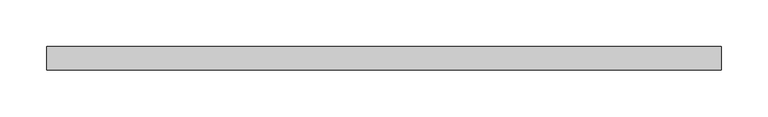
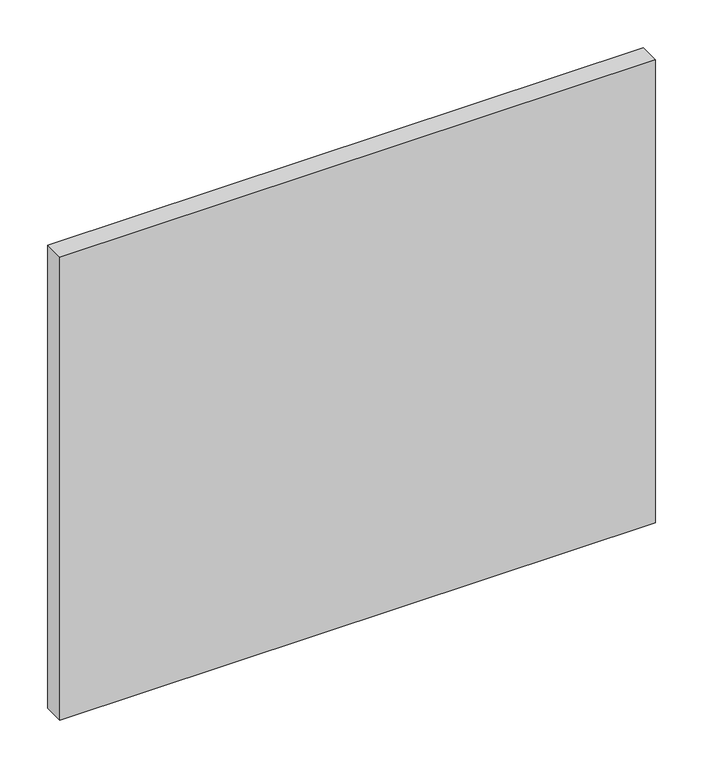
"""IFC4 building model written with IfcOpenShell, lengths in millimetres: plate geometry, 系统嵌板 : 玻璃."""

from ifc_helpers import new_model, si_unit, origin, origin_with_axes, place, context, project, spatial, polyline, outline, extrude, source, transform, mapped, element, save


def plate_72ebff30(model_context):
    return source(origin(), model_context, "Body", "SweptSolid", [
        extrude(outline(polyline([(358.985496, -12.5), (-358.985496, -12.5), (-358.985496, 12.5), (358.985496, 12.5), (358.985496, -12.5)])), origin_with_axes(), (0.0, 0.0, 1.0), 590.0),
    ])


if __name__ == "__main__":
    model = new_model("IFC4")
    model_context = context("Model", 3, world=origin())
    ifc_project = project(units=[si_unit("LENGTHUNIT", "METRE", prefix="MILLI")], contexts=[model_context])
    site = spatial("IfcSite", under=ifc_project)
    building = spatial("IfcBuilding", under=site)
    placement = place(None, origin())
    plate_shape = plate_72ebff30(model_context)
    element("IfcPlate", 1, ObjectType="系统嵌板 : 玻璃", at=placement, inside=building, context=model_context, shape_type="MappedRepresentation", body=[
        mapped(plate_shape, transform((0.0, 0.0, 0.0), x_axis=(1.0, 0.0, 0.0), y_axis=(0.0, 1.0, 0.0), z_axis=(0.0, 0.0, 1.0))),
    ])
    save(model, "model.ifc")
